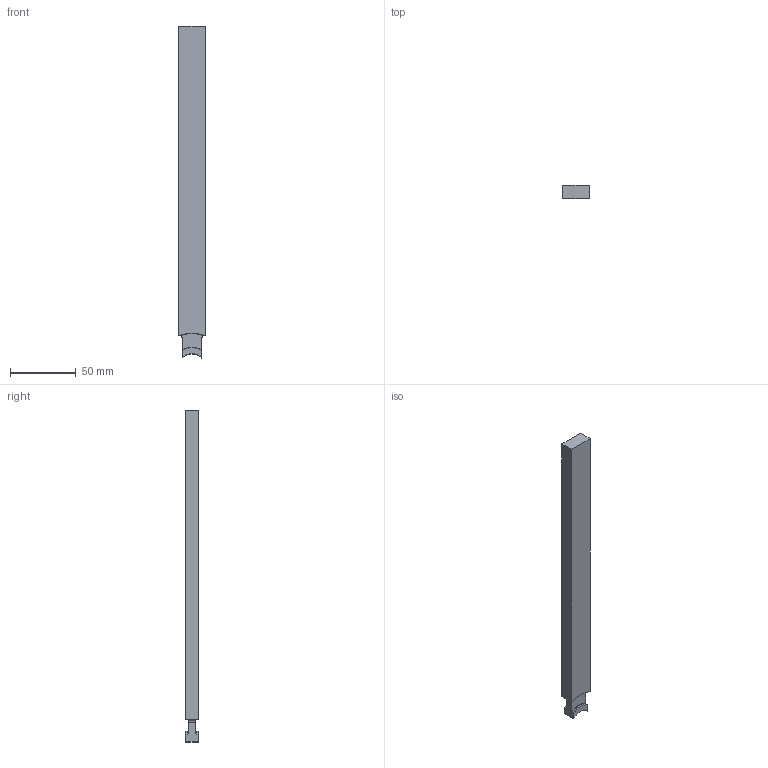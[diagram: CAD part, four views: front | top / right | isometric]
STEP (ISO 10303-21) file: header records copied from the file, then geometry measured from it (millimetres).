
FILE_DESCRIPTION (( 'STEP AP214' ), '1' );
FILE_NAME ('CBMM20X10L250.STEP', '2011-08-03T19:28:39', ( '' ), ( '' ), 'SwSTEP 2.0', 'SolidWorks 2010', '' );
FILE_SCHEMA (( 'AUTOMOTIVE_DESIGN' ));
Length unit declared in the file: millimetre
Products named in the file (1): CBMM20X10L250
Bounding box: 20.25 x 10.25 x 253 mm (x, y, z)
Volume: 50548.4 mm3; surface area: 15624.6 mm2
Topology: 1 solids, 1 shells, 39 faces, 103 edges, 66 vertices
Faces by surface type: cylinder 16, torus 12, plane 11
Entity records: 1343 total; most frequent: CARTESIAN_POINT 341, DIRECTION 207, ORIENTED_EDGE 206, EDGE_CURVE 103, AXIS2_PLACEMENT_3D 84, VERTEX_POINT 66, CIRCLE 44, EDGE_LOOP 39
